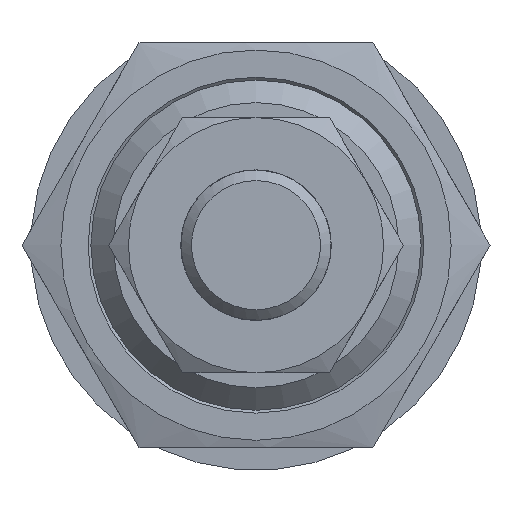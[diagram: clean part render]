
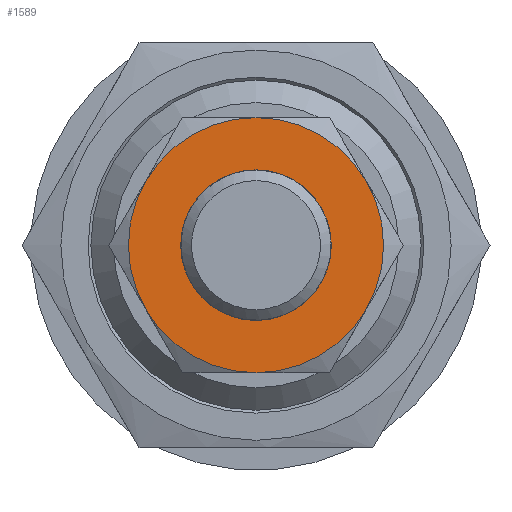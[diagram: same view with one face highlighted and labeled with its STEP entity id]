
A CAD part, front view. The second image highlights one B-rep face of the part: STEP entity #1589.
In plain terms, the highlighted planar face has unit normal (0, -1, 0) as drawn and (1, 0, 0) by its records, which use the part's own axes.
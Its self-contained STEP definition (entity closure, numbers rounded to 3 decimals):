
#252=PLANE('',#2674);
#560=ORIENTED_EDGE('',*,*,#774,.T.);
#561=ORIENTED_EDGE('',*,*,#772,.T.);
#562=ORIENTED_EDGE('',*,*,#769,.T.);
#563=ORIENTED_EDGE('',*,*,#768,.T.);
#564=ORIENTED_EDGE('',*,*,#770,.T.);
#565=ORIENTED_EDGE('',*,*,#771,.T.);
#566=ORIENTED_EDGE('',*,*,#773,.T.);
#768=EDGE_CURVE('',#912,#919,#1029,.T.);
#769=EDGE_CURVE('',#909,#912,#1030,.T.);
#770=EDGE_CURVE('',#919,#917,#1031,.T.);
#771=EDGE_CURVE('',#917,#914,#1032,.T.);
#772=EDGE_CURVE('',#904,#909,#1033,.T.);
#773=EDGE_CURVE('',#914,#904,#1034,.T.);
#774=EDGE_CURVE('',#920,#920,#1035,.F.);
#904=VERTEX_POINT('',#3551);
#909=VERTEX_POINT('',#3571);
#912=VERTEX_POINT('',#3588);
#914=VERTEX_POINT('',#3606);
#917=VERTEX_POINT('',#3623);
#919=VERTEX_POINT('',#3639);
#920=VERTEX_POINT('',#3663);
#1029=CIRCLE('',#2657,8.5);
#1030=CIRCLE('',#2659,8.5);
#1031=CIRCLE('',#2661,8.5);
#1032=CIRCLE('',#2663,8.5);
#1033=CIRCLE('',#2665,8.5);
#1034=CIRCLE('',#2667,8.5);
#1035=CIRCLE('',#2675,5.016);
#1219=EDGE_LOOP('',(#560));
#1220=EDGE_LOOP('',(#561,#562,#563,#564,#565,#566));
#1423=FACE_BOUND('',#1219,.T.);
#1424=FACE_BOUND('',#1220,.T.);
#1589=ADVANCED_FACE('',(#1423,#1424),#252,.T.);
#2657=AXIS2_PLACEMENT_3D('',#3644,#3110,#3111);
#2659=AXIS2_PLACEMENT_3D('',#3646,#3114,#3115);
#2661=AXIS2_PLACEMENT_3D('',#3648,#3118,#3119);
#2663=AXIS2_PLACEMENT_3D('',#3650,#3122,#3123);
#2665=AXIS2_PLACEMENT_3D('',#3652,#3126,#3127);
#2667=AXIS2_PLACEMENT_3D('',#3654,#3130,#3131);
#2674=AXIS2_PLACEMENT_3D('',#3661,#3144,#3145);
#2675=AXIS2_PLACEMENT_3D('',#3662,#3146,#3147);
#3110=DIRECTION('',(1.,0.,0.));
#3111=DIRECTION('',(0.,1.,0.));
#3114=DIRECTION('',(1.,0.,0.));
#3115=DIRECTION('',(0.,1.,0.));
#3118=DIRECTION('',(1.,0.,0.));
#3119=DIRECTION('',(0.,1.,0.));
#3122=DIRECTION('',(1.,0.,0.));
#3123=DIRECTION('',(0.,1.,0.));
#3126=DIRECTION('',(1.,0.,0.));
#3127=DIRECTION('',(0.,1.,0.));
#3130=DIRECTION('',(1.,0.,0.));
#3131=DIRECTION('',(0.,1.,0.));
#3144=DIRECTION('',(1.,0.,0.));
#3145=DIRECTION('',(0.,0.,-1.));
#3146=DIRECTION('',(1.,0.,0.));
#3147=DIRECTION('',(0.,0.,-1.));
#3551=CARTESIAN_POINT('',(6.,-7.361,-4.25));
#3571=CARTESIAN_POINT('',(6.,0.,-8.5));
#3588=CARTESIAN_POINT('',(6.,7.361,-4.25));
#3606=CARTESIAN_POINT('',(6.,-7.361,4.25));
#3623=CARTESIAN_POINT('',(6.,0.,8.5));
#3639=CARTESIAN_POINT('',(6.,7.361,4.25));
#3644=CARTESIAN_POINT('',(6.,0.,0.));
#3646=CARTESIAN_POINT('',(6.,0.,0.));
#3648=CARTESIAN_POINT('',(6.,0.,0.));
#3650=CARTESIAN_POINT('',(6.,0.,0.));
#3652=CARTESIAN_POINT('',(6.,0.,0.));
#3654=CARTESIAN_POINT('',(6.,0.,0.));
#3661=CARTESIAN_POINT('',(6.,0.,0.));
#3662=CARTESIAN_POINT('',(6.,0.,0.));
#3663=CARTESIAN_POINT('',(6.,0.,-5.016));
